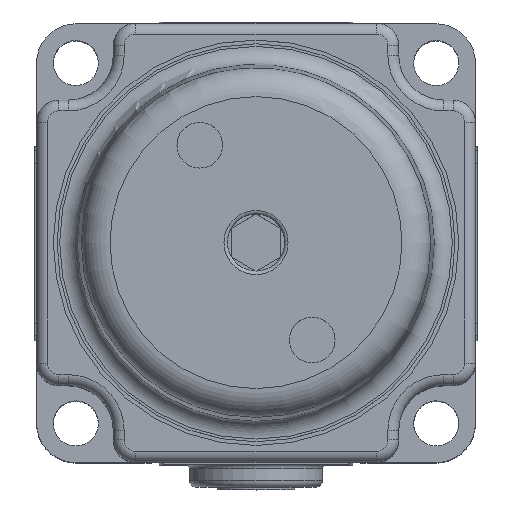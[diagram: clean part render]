
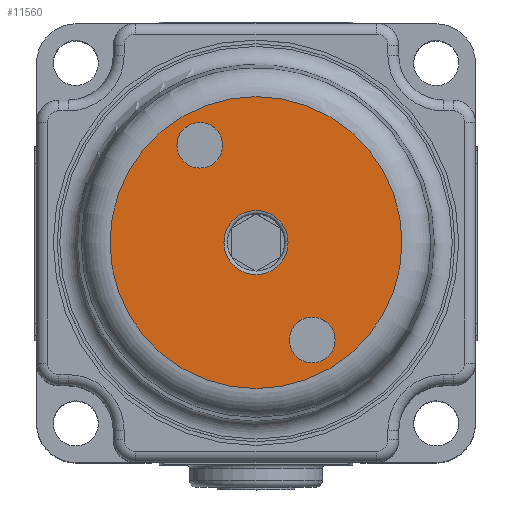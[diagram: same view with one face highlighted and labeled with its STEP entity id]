
A CAD part, top view. The second image highlights one B-rep face of the part: STEP entity #11560.
In plain terms, the highlighted planar face has unit normal (0, 0, 1).
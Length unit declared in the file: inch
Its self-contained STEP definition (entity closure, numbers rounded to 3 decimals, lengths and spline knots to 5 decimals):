
#491=FACE_BOUND('',#1982,.T.);
#492=FACE_BOUND('',#1983,.T.);
#493=FACE_BOUND('',#1984,.T.);
#782=PLANE('',#12747);
#1289=FACE_OUTER_BOUND('',#1981,.T.);
#1981=EDGE_LOOP('',(#9282,#9283));
#1982=EDGE_LOOP('',(#9284,#9285));
#1983=EDGE_LOOP('',(#9286,#9287));
#1984=EDGE_LOOP('',(#9288,#9289));
#2476=CIRCLE('',#12734,0.089);
#2481=CIRCLE('',#12739,0.089);
#2488=CIRCLE('',#12748,0.4051);
#2489=CIRCLE('',#12749,0.4051);
#2490=CIRCLE('',#12750,0.0635);
#2491=CIRCLE('',#12751,0.0635);
#2492=CIRCLE('',#12752,0.0635);
#2493=CIRCLE('',#12753,0.0635);
#5032=VERTEX_POINT('',#19463);
#5033=VERTEX_POINT('',#19464);
#5039=VERTEX_POINT('',#19485);
#5040=VERTEX_POINT('',#19486);
#5041=VERTEX_POINT('',#19489);
#5042=VERTEX_POINT('',#19490);
#5043=VERTEX_POINT('',#19493);
#5044=VERTEX_POINT('',#19494);
#6498=EDGE_CURVE('',#5032,#5033,#2476,.T.);
#6503=EDGE_CURVE('',#5033,#5032,#2481,.T.);
#6511=EDGE_CURVE('',#5039,#5040,#2488,.T.);
#6512=EDGE_CURVE('',#5040,#5039,#2489,.T.);
#6513=EDGE_CURVE('',#5041,#5042,#2490,.T.);
#6514=EDGE_CURVE('',#5042,#5041,#2491,.T.);
#6515=EDGE_CURVE('',#5043,#5044,#2492,.T.);
#6516=EDGE_CURVE('',#5044,#5043,#2493,.T.);
#9282=ORIENTED_EDGE('',*,*,#6511,.T.);
#9283=ORIENTED_EDGE('',*,*,#6512,.T.);
#9284=ORIENTED_EDGE('',*,*,#6513,.T.);
#9285=ORIENTED_EDGE('',*,*,#6514,.T.);
#9286=ORIENTED_EDGE('',*,*,#6515,.T.);
#9287=ORIENTED_EDGE('',*,*,#6516,.T.);
#9288=ORIENTED_EDGE('',*,*,#6498,.F.);
#9289=ORIENTED_EDGE('',*,*,#6503,.F.);
#11560=ADVANCED_FACE('',(#1289,#491,#492,#493),#782,.T.);
#12734=AXIS2_PLACEMENT_3D('',#19465,#15630,#15631);
#12739=AXIS2_PLACEMENT_3D('',#19473,#15640,#15641);
#12747=AXIS2_PLACEMENT_3D('',#19484,#15657,#15658);
#12748=AXIS2_PLACEMENT_3D('',#19487,#15659,#15660);
#12749=AXIS2_PLACEMENT_3D('',#19488,#15661,#15662);
#12750=AXIS2_PLACEMENT_3D('',#19491,#15663,#15664);
#12751=AXIS2_PLACEMENT_3D('',#19492,#15665,#15666);
#12752=AXIS2_PLACEMENT_3D('',#19495,#15667,#15668);
#12753=AXIS2_PLACEMENT_3D('',#19496,#15669,#15670);
#15630=DIRECTION('center_axis',(0.,0.,
1.));
#15631=DIRECTION('ref_axis',(0.5,-0.866,0.));
#15640=DIRECTION('center_axis',(0.,0.,
1.));
#15641=DIRECTION('ref_axis',(0.5,-0.866,0.));
#15657=DIRECTION('center_axis',(0.,0.,1.));
#15658=DIRECTION('ref_axis',(1.,0.,0.));
#15659=DIRECTION('center_axis',(0.,0.,
1.));
#15660=DIRECTION('ref_axis',(-0.5,0.866,0.));
#15661=DIRECTION('center_axis',(0.,0.,
1.));
#15662=DIRECTION('ref_axis',(-0.5,0.866,0.));
#15663=DIRECTION('center_axis',(0.,0.,
-1.));
#15664=DIRECTION('ref_axis',(0.414,0.91,0.));
#15665=DIRECTION('center_axis',(0.,0.,
-1.));
#15666=DIRECTION('ref_axis',(0.414,0.91,0.));
#15667=DIRECTION('center_axis',(0.,0.,-1.));
#15668=DIRECTION('ref_axis',(0.414,0.91,0.));
#15669=DIRECTION('center_axis',(0.,0.,-1.));
#15670=DIRECTION('ref_axis',(0.414,0.91,0.));
#19463=CARTESIAN_POINT('',(1.6674,-0.41006,0.96745));
#19464=CARTESIAN_POINT('',(1.67932,-0.45456,0.96745));
#19465=CARTESIAN_POINT('Origin',(1.59032,-0.45456,0.96745));
#19473=CARTESIAN_POINT('Origin',(1.59032,-0.45456,0.96745));
#19484=CARTESIAN_POINT('Origin',(1.23915,-0.65731,0.96745));
#19485=CARTESIAN_POINT('',(1.94116,-0.25201,0.96745));
#19486=CARTESIAN_POINT('',(1.18522,-0.45456,0.96745));
#19487=CARTESIAN_POINT('Origin',(1.59032,-0.45456,0.96745));
#19488=CARTESIAN_POINT('Origin',(1.59032,-0.45456,0.96745));
#19489=CARTESIAN_POINT('',(1.48932,-0.15261,0.96745));
#19490=CARTESIAN_POINT('',(1.37933,-0.21611,0.96745));
#19491=CARTESIAN_POINT('Origin',(1.43432,-0.18436,0.96745));
#19492=CARTESIAN_POINT('Origin',(1.43432,-0.18436,0.96745));
#19493=CARTESIAN_POINT('',(1.80132,-0.69301,0.96745));
#19494=CARTESIAN_POINT('',(1.69133,-0.75651,0.96745));
#19495=CARTESIAN_POINT('Origin',(1.74632,-0.72476,0.96745));
#19496=CARTESIAN_POINT('Origin',(1.74632,-0.72476,0.96745));
